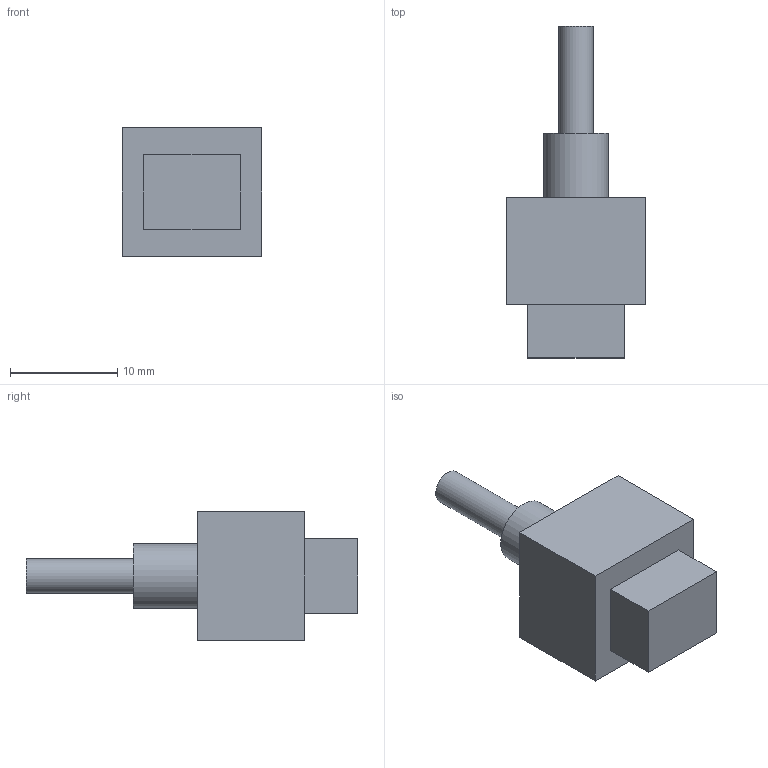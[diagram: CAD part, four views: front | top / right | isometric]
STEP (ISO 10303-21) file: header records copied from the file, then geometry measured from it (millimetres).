
FILE_DESCRIPTION(('Open CASCADE Model'),'2;1');
FILE_NAME('Open CASCADE Shape Model','2026-10-01T12:35:22',('Author'),( 'Open CASCADE'),'Open CASCADE STEP processor 7.8','Open CASCADE 7.8' ,'Unknown');
FILE_SCHEMA(('AUTOMOTIVE_DESIGN { 1 0 10303 214 1 1 1 1 }'));
Length unit declared in the file: millimetre
Products named in the file (2): E12_MTS202_BU0014_provisional; E12_MTS202_BU0014_provisional_solid
Assembly tree (1 placements, depth 2):
  E12_MTS202_BU0014_provisional
    E12_MTS202_BU0014_provisional_solid
Bounding box: 13 x 31 x 12 mm (x, y, z)
Volume: 2125.1 mm3; surface area: 1185.6 mm2
Topology: 1 solids, 1 shells, 15 faces, 30 edges, 20 vertices
Faces by surface type: plane 13, cylinder 2
Full cylindrical faces by diameter (mm): 3.2 x1, 6 x1
Entity records: 815 total; most frequent: DIRECTION 128, CARTESIAN_POINT 127, LINE 82, VECTOR 82, ORIENTED_EDGE 60, PCURVE 60, DEFINITIONAL_REPRESENTATION 60, EDGE_CURVE 30
